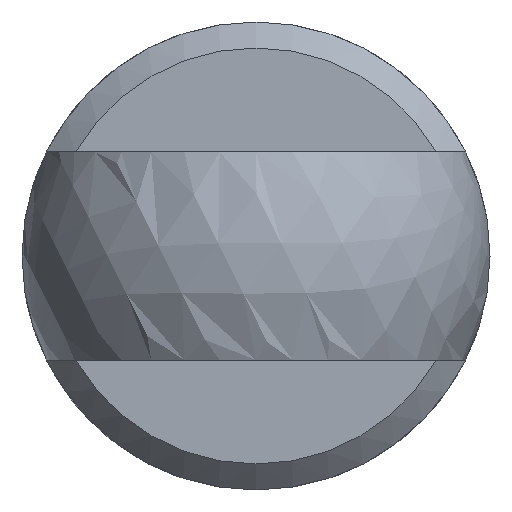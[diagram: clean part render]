
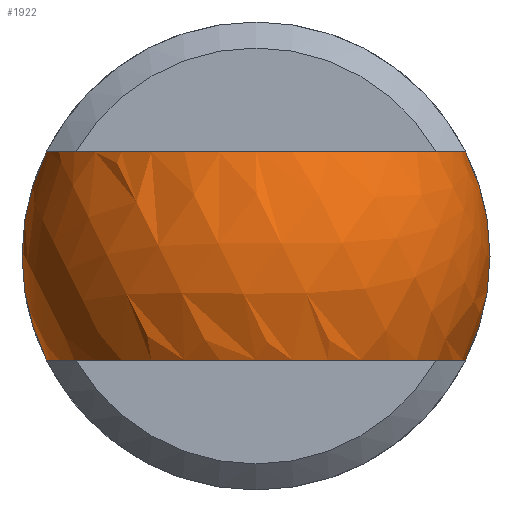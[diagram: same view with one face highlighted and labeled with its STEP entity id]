
A CAD part, left-side view. The second image highlights one B-rep face of the part: STEP entity #1922.
In plain terms, the highlighted spherical face has radius 4.5 mm.
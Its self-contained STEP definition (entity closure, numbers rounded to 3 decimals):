
#791=CARTESIAN_POINT('',(-231.609,65.018,-135.189));
#792=DIRECTION('',(-1.,0.,0.));
#793=DIRECTION('',(0.,-0.896,-0.444));
#794=AXIS2_PLACEMENT_3D('',#791,#792,#793);
#796=CARTESIAN_POINT('',(-231.609,65.018,-137.189));
#797=DIRECTION('',(0.,0.,-1.));
#798=DIRECTION('',(0.,-1.,0.));
#799=AXIS2_PLACEMENT_3D('',#796,#797,#798);
#801=CARTESIAN_POINT('',(-231.609,65.018,-135.189));
#802=DIRECTION('',(-1.,0.,0.));
#803=DIRECTION('',(0.,0.896,0.444));
#804=AXIS2_PLACEMENT_3D('',#801,#802,#803);
#806=CARTESIAN_POINT('',(-231.609,65.018,-133.189));
#807=DIRECTION('',(0.,0.,-1.));
#808=DIRECTION('',(0.,-1.,0.));
#809=AXIS2_PLACEMENT_3D('',#806,#807,#808);
#1029=CARTESIAN_POINT('',(-231.609,60.987,
-137.189));
#1030=CARTESIAN_POINT('',(-231.609,69.049,
-137.189));
#1031=VERTEX_POINT('',#1029);
#1032=VERTEX_POINT('',#1030);
#1033=CARTESIAN_POINT('',(-231.609,60.987,
-133.189));
#1034=CARTESIAN_POINT('',(-231.609,69.049,
-133.189));
#1035=VERTEX_POINT('',#1033);
#1036=VERTEX_POINT('',#1034);
#1910=CARTESIAN_POINT('',(-231.609,65.018,
-135.189));
#1911=DIRECTION('',(0.,-0.896,0.444));
#1912=DIRECTION('',(1.,0.,0.));
#1913=AXIS2_PLACEMENT_3D('',#1910,#1911,#1912);
#1914=SPHERICAL_SURFACE('',#1913,4.5);
#1915=ORIENTED_EDGE('',*,*,#1841,.F.);
#1916=ORIENTED_EDGE('',*,*,#1886,.T.);
#1917=ORIENTED_EDGE('',*,*,#1812,.F.);
#1919=ORIENTED_EDGE('',*,*,#1918,.F.);
#1920=EDGE_LOOP('',(#1915,#1916,#1917,#1919));
#1921=FACE_OUTER_BOUND('',#1920,.F.);
#1922=ADVANCED_FACE('',(#1921),#1914,.T.);
#795=CIRCLE('',#794,4.5);
#800=CIRCLE('',#799,4.031);
#805=CIRCLE('',#804,4.5);
#810=CIRCLE('',#809,4.031);
#1812=EDGE_CURVE('',#1036,#1032,#805,.T.);
#1841=EDGE_CURVE('',#1031,#1035,#795,.T.);
#1886=EDGE_CURVE('',#1031,#1032,#800,.T.);
#1918=EDGE_CURVE('',#1035,#1036,#810,.T.);
